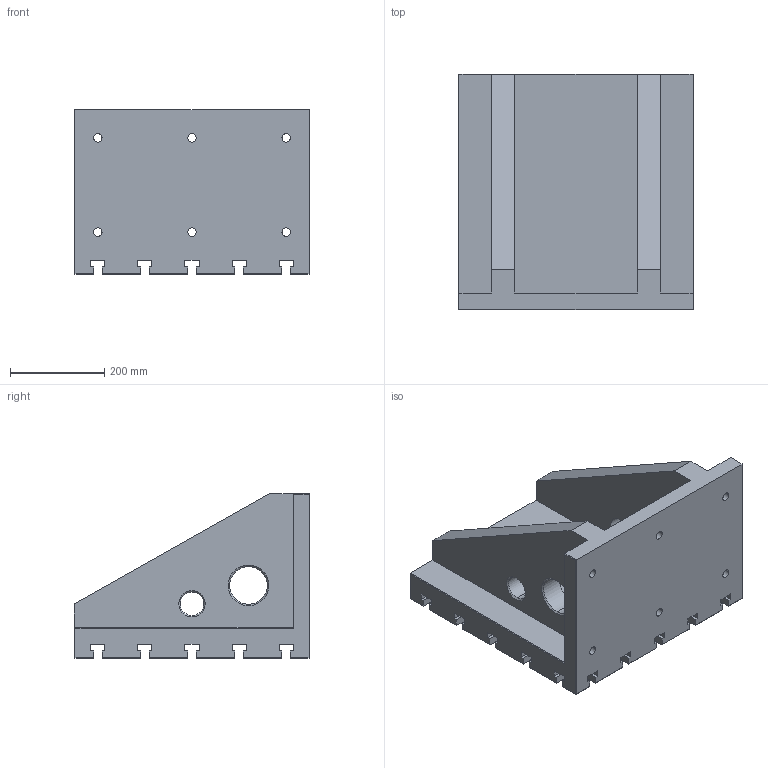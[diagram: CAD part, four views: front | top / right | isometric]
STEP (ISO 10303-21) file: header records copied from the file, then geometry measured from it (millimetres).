
FILE_DESCRIPTION((''),'2;1');
FILE_NAME('FG_WH_ANGPL_ANT18NP002','2026-05-22T12:07:43',('Admin'),(''),'CREO PARAMETRIC BY PTC INC, 2025010','CREO PARAMETRIC BY PTC INC, 2025010','');
FILE_SCHEMA(('CONFIG_CONTROL_DESIGN'));
Length unit declared in the file: millimetre
Products named in the file (1): FG_WH_ANGPL_ANT18NP002
Bounding box: 500 x 500 x 350 mm (x, y, z)
Volume: 25956081.3 mm3; surface area: 1576380.2 mm2
Topology: 1 solids, 1 shells, 409 faces, 1093 edges, 724 vertices
Faces by surface type: plane 369, cylinder 32, cone 8
Entity records: 12605 total; most frequent: CARTESIAN_POINT 2226, ORIENTED_EDGE 2186, DIRECTION 1983, EDGE_CURVE 1093, VECTOR 1021, LINE 1021, VERTEX_POINT 724, AXIS2_PLACEMENT_3D 481
